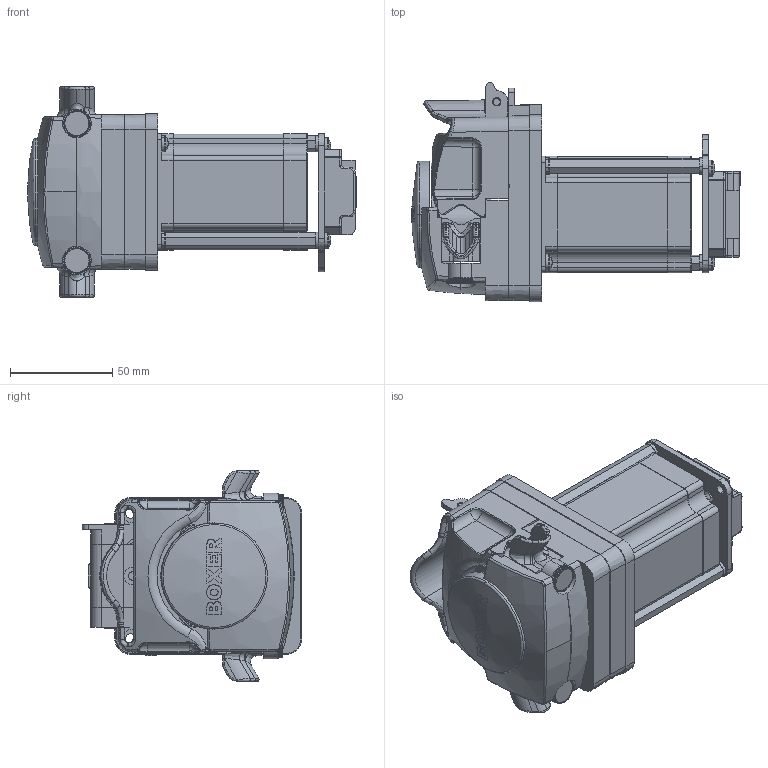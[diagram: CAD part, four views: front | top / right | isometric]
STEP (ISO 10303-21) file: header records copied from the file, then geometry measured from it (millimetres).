
FILE_DESCRIPTION (( 'STEP AP203' ), '1' );
FILE_NAME ('25K+driver.STEP', '2016-10-13T17:52:24', ( '' ), ( '' ), 'SwSTEP 2.0', 'SolidWorks 2014', '' );
FILE_SCHEMA (( 'CONFIG_CONTROL_DESIGN' ));
Products named in the file (1): 25K+driver
Bounding box: 160.45 x 107.28 x 103 mm (x, y, z)
Surface area: 104709.4 mm2 (no closed solid volume)
Topology: 0 solids, 45 shells, 1200 faces, 4530 edges, 3318 vertices
Faces by surface type: plane 418, cylinder 306, bspline 209, cone 130, torus 97, sphere 40
Entity records: 55879 total; most frequent: CARTESIAN_POINT 20338, ORIENTED_EDGE 7038, DIRECTION 6931, EDGE_CURVE 4524, VERTEX_POINT 3318, AXIS2_PLACEMENT_3D 2539, VECTOR 1853, LINE 1853
